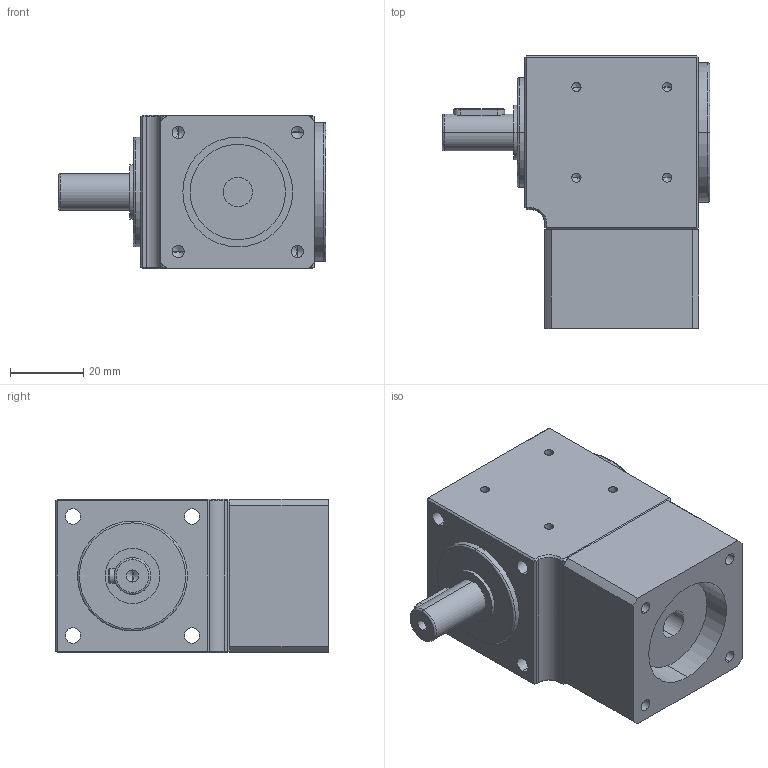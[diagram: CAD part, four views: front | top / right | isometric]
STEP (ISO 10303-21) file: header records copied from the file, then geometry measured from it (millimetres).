
FILE_DESCRIPTION (( 'STEP AP214' ), '1' );
FILE_NAME ('ZR042-003--8-30-46-M4.STEP', '2020-05-13T05:47:21', ( 'User' ), ( 'Far123' ), 'SwSTEP 2.0', 'SolidWorks 2015', '' );
FILE_SCHEMA (( 'AUTOMOTIVE_DESIGN' ));
Length unit declared in the file: millimetre
Products named in the file (1): ZR042-003--8-30-46-M4
Bounding box: 73 x 74.5 x 42 mm (x, y, z)
Volume: 136342.8 mm3; surface area: 24904.4 mm2
Topology: 1 solids, 1 shells, 178 faces, 406 edges, 225 vertices
Faces by surface type: cylinder 71, plane 63, cone 38, torus 6
Entity records: 5164 total; most frequent: DIRECTION 892, CARTESIAN_POINT 834, ORIENTED_EDGE 744, EDGE_CURVE 372, AXIS2_PLACEMENT_3D 343, VERTEX_POINT 225, EDGE_LOOP 215, VECTOR 206
